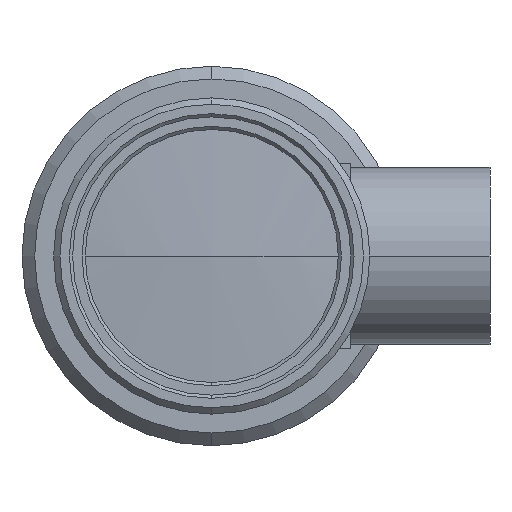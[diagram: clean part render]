
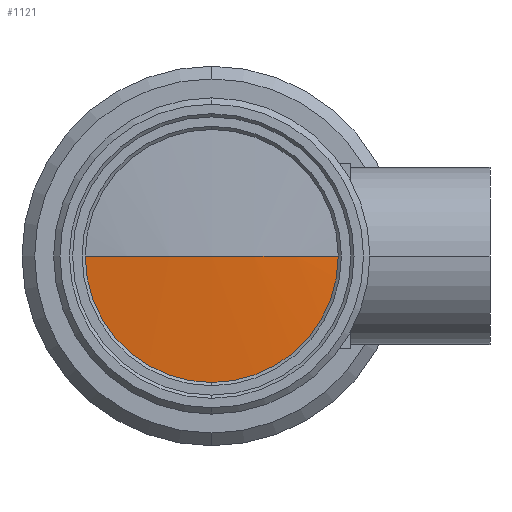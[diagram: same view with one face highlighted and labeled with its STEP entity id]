
A CAD part, left-side view. The second image highlights one B-rep face of the part: STEP entity #1121.
In plain terms, the highlighted spherical face has radius 96 mm.
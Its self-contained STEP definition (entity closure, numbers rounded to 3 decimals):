
#15 = CIRCLE ( 'NONE', #378, 96. ) ;
#57 = DIRECTION ( 'NONE',  ( -1., 0., 0. ) ) ;
#188 = CARTESIAN_POINT ( 'NONE',  ( 5.687, 0., 0. ) ) ;
#194 = AXIS2_PLACEMENT_3D ( 'NONE', #2015, #2479, #1105 ) ;
#378 = AXIS2_PLACEMENT_3D ( 'NONE', #2614, #1253, #2855 ) ;
#467 = ORIENTED_EDGE ( 'NONE', *, *, #1706, .T. ) ;
#679 = ORIENTED_EDGE ( 'NONE', *, *, #2910, .T. ) ;
#722 = DIRECTION ( 'NONE',  ( 0., 0., 1. ) ) ;
#848 = AXIS2_PLACEMENT_3D ( 'NONE', #2090, #722, #2326 ) ;
#879 = FACE_OUTER_BOUND ( 'NONE', #1285, .T. ) ;
#909 = VERTEX_POINT ( 'NONE', #1525 ) ;
#915 = ORIENTED_EDGE ( 'NONE', *, *, #1640, .F. ) ;
#958 = VERTEX_POINT ( 'NONE', #2648 ) ;
#1027 = CIRCLE ( 'NONE', #848, 96. ) ;
#1035 = SPHERICAL_SURFACE ( 'NONE', #194, 96. ) ;
#1105 = DIRECTION ( 'NONE',  ( 0., 1., 0. ) ) ;
#1121 = ADVANCED_FACE ( 'NONE', ( #879 ), #1035, .T. ) ;
#1152 = VERTEX_POINT ( 'NONE', #2968 ) ;
#1253 = DIRECTION ( 'NONE',  ( 0., 0., -1. ) ) ;
#1285 = EDGE_LOOP ( 'NONE', ( #679, #2871, #915, #467 ) ) ;
#1338 = DIRECTION ( 'NONE',  ( -1., 0., 0. ) ) ;
#1422 = CARTESIAN_POINT ( 'NONE',  ( 5.687, 0., 0. ) ) ;
#1525 = CARTESIAN_POINT ( 'NONE',  ( 5.687, -10., 0. ) ) ;
#1640 = EDGE_CURVE ( 'NONE', #1152, #1950, #1027, .T. ) ;
#1658 = DIRECTION ( 'NONE',  ( 0., 0., 1. ) ) ;
#1706 = EDGE_CURVE ( 'NONE', #1152, #958, #2775, .T. ) ;
#1776 = AXIS2_PLACEMENT_3D ( 'NONE', #1422, #57, #1658 ) ;
#1950 = VERTEX_POINT ( 'NONE', #2119 ) ;
#2015 = CARTESIAN_POINT ( 'NONE',  ( 101.165, 0., 0. ) ) ;
#2090 = CARTESIAN_POINT ( 'NONE',  ( 101.165, 0., 0. ) ) ;
#2119 = CARTESIAN_POINT ( 'NONE',  ( 5.165, 0., 0. ) ) ;
#2326 = DIRECTION ( 'NONE',  ( 1., 0., 0. ) ) ;
#2479 = DIRECTION ( 'NONE',  ( 0., 0., -1. ) ) ;
#2614 = CARTESIAN_POINT ( 'NONE',  ( 101.165, 0., 0. ) ) ;
#2648 = CARTESIAN_POINT ( 'NONE',  ( 5.687, 0., -10. ) ) ;
#2723 = EDGE_CURVE ( 'NONE', #909, #1950, #15, .T. ) ;
#2727 = CIRCLE ( 'NONE', #2841, 10. ) ;
#2775 = CIRCLE ( 'NONE', #1776, 10. ) ;
#2841 = AXIS2_PLACEMENT_3D ( 'NONE', #188, #1338, #2948 ) ;
#2855 = DIRECTION ( 'NONE',  ( 0., 1., 0. ) ) ;
#2871 = ORIENTED_EDGE ( 'NONE', *, *, #2723, .T. ) ;
#2910 = EDGE_CURVE ( 'NONE', #958, #909, #2727, .T. ) ;
#2948 = DIRECTION ( 'NONE',  ( 0., 0., 1. ) ) ;
#2968 = CARTESIAN_POINT ( 'NONE',  ( 5.687, 10., 0. ) ) ;
